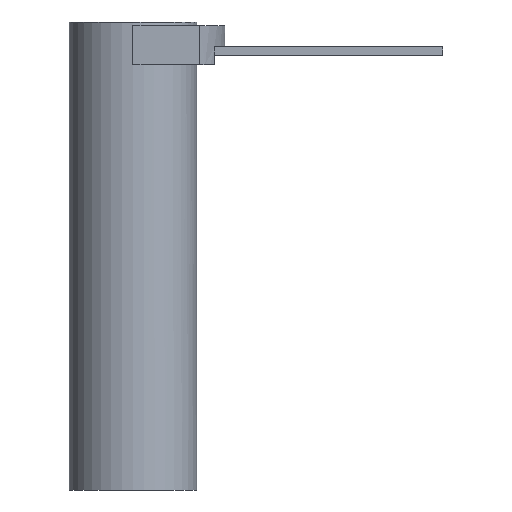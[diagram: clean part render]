
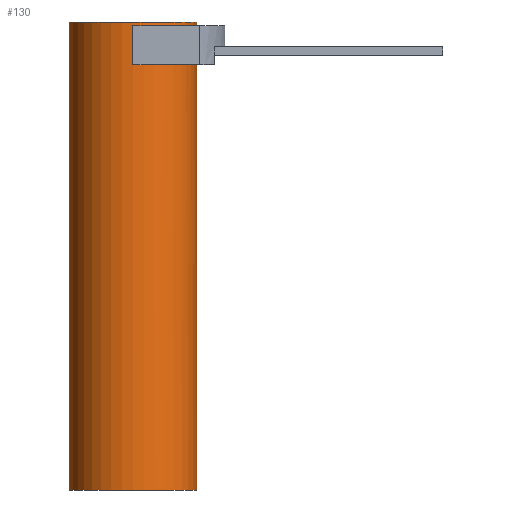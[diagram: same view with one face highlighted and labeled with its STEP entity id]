
A CAD part, front view. The second image highlights one B-rep face of the part: STEP entity #130.
In plain terms, the highlighted cylindrical face has radius 9 mm (diameter 18 mm), a partial arc.
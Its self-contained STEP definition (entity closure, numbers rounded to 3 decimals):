
#113=CYLINDRICAL_SURFACE('',#597,9.);
#130=ADVANCED_FACE('',(#175),#113,.T.);
#175=FACE_OUTER_BOUND('',#198,.T.);
#198=EDGE_LOOP('',(#301,#302,#303,#304,#305,#306,#307,#308,#309,#310));
#224=CIRCLE('',#577,9.);
#225=CIRCLE('',#580,9.);
#230=CIRCLE('',#590,9.);
#233=CIRCLE('',#595,9.);
#234=CIRCLE('',#596,9.);
#301=ORIENTED_EDGE('',*,*,#452,.F.);
#302=ORIENTED_EDGE('',*,*,#457,.F.);
#303=ORIENTED_EDGE('',*,*,#458,.T.);
#304=ORIENTED_EDGE('',*,*,#455,.T.);
#305=ORIENTED_EDGE('',*,*,#459,.F.);
#306=ORIENTED_EDGE('',*,*,#453,.F.);
#307=ORIENTED_EDGE('',*,*,#438,.F.);
#308=ORIENTED_EDGE('',*,*,#435,.F.);
#309=ORIENTED_EDGE('',*,*,#434,.F.);
#310=ORIENTED_EDGE('',*,*,#448,.F.);
#388=VERTEX_POINT('',#794);
#390=VERTEX_POINT('',#798);
#391=VERTEX_POINT('',#802);
#393=VERTEX_POINT('',#808);
#398=VERTEX_POINT('',#825);
#400=VERTEX_POINT('',#833);
#401=VERTEX_POINT('',#837);
#402=VERTEX_POINT('',#839);
#403=VERTEX_POINT('',#841);
#404=VERTEX_POINT('',#843);
#434=EDGE_CURVE('',#390,#388,#224,.T.);
#435=EDGE_CURVE('',#388,#391,#498,.T.);
#438=EDGE_CURVE('',#391,#393,#225,.T.);
#448=EDGE_CURVE('',#398,#390,#508,.T.);
#452=EDGE_CURVE('',#400,#398,#230,.T.);
#453=EDGE_CURVE('',#393,#401,#510,.T.);
#455=EDGE_CURVE('',#403,#402,#511,.T.);
#457=EDGE_CURVE('',#404,#400,#512,.T.);
#458=EDGE_CURVE('',#404,#403,#233,.T.);
#459=EDGE_CURVE('',#401,#402,#234,.T.);
#498=LINE('',#801,#537);
#508=LINE('',#827,#547);
#510=LINE('',#836,#549);
#511=LINE('',#840,#550);
#512=LINE('',#844,#551);
#537=VECTOR('',#647,1.);
#547=VECTOR('',#671,1.);
#549=VECTOR('',#685,1.);
#550=VECTOR('',#688,1.);
#551=VECTOR('',#691,1.);
#577=AXIS2_PLACEMENT_3D('',#799,#643,#644);
#580=AXIS2_PLACEMENT_3D('',#807,#652,#653);
#590=AXIS2_PLACEMENT_3D('',#834,#681,#682);
#595=AXIS2_PLACEMENT_3D('',#846,#694,#695);
#596=AXIS2_PLACEMENT_3D('',#847,#696,#697);
#597=AXIS2_PLACEMENT_3D('',#848,#698,#699);
#643=DIRECTION('',(0.,0.,1.));
#644=DIRECTION('',(-1.,0.,0.));
#647=DIRECTION('',(0.,0.,1.));
#652=DIRECTION('',(0.,0.,1.));
#653=DIRECTION('',(0.565,-0.825,0.));
#671=DIRECTION('',(0.,0.,-1.));
#681=DIRECTION('',(0.,0.,-1.));
#682=DIRECTION('',(-1.,0.,0.));
#685=DIRECTION('',(0.,0.,-1.));
#688=DIRECTION('',(0.,0.,-1.));
#691=DIRECTION('',(0.,0.,-1.));
#694=DIRECTION('',(0.,0.,-1.));
#695=DIRECTION('',(0.,1.,0.));
#696=DIRECTION('',(0.,0.,-1.));
#697=DIRECTION('',(0.,1.,0.));
#698=DIRECTION('',(0.,0.,-1.));
#699=DIRECTION('',(0.,-1.,0.));
#794=CARTESIAN_POINT('',(6.708,-6.,60.));
#798=CARTESIAN_POINT('',(0.,-9.,60.));
#799=CARTESIAN_POINT('',(0.,0.,60.));
#801=CARTESIAN_POINT('',(6.708,-6.,59.98));
#802=CARTESIAN_POINT('',(6.708,-6.,62.5));
#807=CARTESIAN_POINT('',(0.,0.,62.5));
#808=CARTESIAN_POINT('',(9.,0.,62.5));
#825=CARTESIAN_POINT('',(0.,-9.,65.5));
#827=CARTESIAN_POINT('',(0.,-9.,66.02));
#833=CARTESIAN_POINT('',(9.,0.,65.5));
#834=CARTESIAN_POINT('',(0.,0.,65.5));
#836=CARTESIAN_POINT('',(9.,0.,0.));
#837=CARTESIAN_POINT('',(9.,0.,0.));
#839=CARTESIAN_POINT('',(-9.,0.,0.));
#840=CARTESIAN_POINT('',(-9.,0.,0.));
#841=CARTESIAN_POINT('',(-9.,0.,66.));
#843=CARTESIAN_POINT('',(9.,0.,66.));
#844=CARTESIAN_POINT('',(9.,0.,0.));
#846=CARTESIAN_POINT('',(0.,0.,66.));
#847=CARTESIAN_POINT('',(0.,0.,0.));
#848=CARTESIAN_POINT('',(0.,0.,66.));
